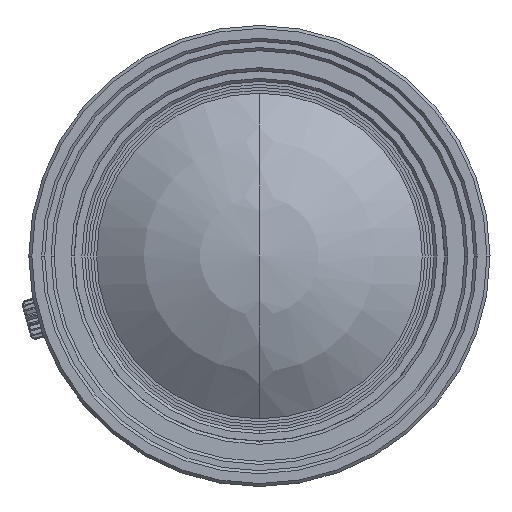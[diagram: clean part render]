
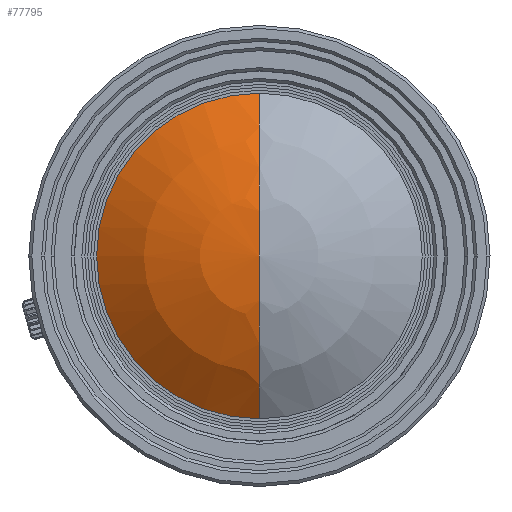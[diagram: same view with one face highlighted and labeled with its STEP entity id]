
A CAD part, left-side view. The second image highlights one B-rep face of the part: STEP entity #77795.
In plain terms, the highlighted spherical face has radius 25.657 mm.
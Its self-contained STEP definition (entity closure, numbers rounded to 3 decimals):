
#77700=CARTESIAN_POINT('',(34.09,-7.633,
-13.958));
#77701=DIRECTION('',(0.,1.,0.));
#77702=DIRECTION('',(-1.,0.,0.));
#77703=AXIS2_PLACEMENT_3D('',#77700,#77701,#77702);
#77705=CARTESIAN_POINT('',(34.09,-7.633,
-13.958));
#77706=DIRECTION('',(0.,1.,0.));
#77707=DIRECTION('',(-0.769,0.,-0.639));
#77708=AXIS2_PLACEMENT_3D('',#77705,#77706,#77707);
#77719=CARTESIAN_POINT('',(14.358,-7.632,
-13.958));
#77720=DIRECTION('',(-1.,0.,0.));
#77721=DIRECTION('',(0.,0.,1.));
#77722=AXIS2_PLACEMENT_3D('',#77719,#77720,#77721);
#77766=CARTESIAN_POINT('',(8.433,-7.632,
-13.958));
#77767=CARTESIAN_POINT('',(14.358,-7.632,
2.442));
#77768=VERTEX_POINT('',#77766);
#77769=VERTEX_POINT('',#77767);
#77770=CARTESIAN_POINT('',(14.358,-7.632,
-30.358));
#77771=VERTEX_POINT('',#77770);
#77782=CARTESIAN_POINT('',(34.09,-7.633,
-13.958));
#77783=DIRECTION('',(-1.,0.,0.));
#77784=DIRECTION('',(0.,0.,-1.));
#77785=AXIS2_PLACEMENT_3D('',#77782,#77783,#77784);
#77786=SPHERICAL_SURFACE('',#77785,25.657);
#77788=ORIENTED_EDGE('',*,*,#77787,.F.);
#77790=ORIENTED_EDGE('',*,*,#77789,.F.);
#77792=ORIENTED_EDGE('',*,*,#77791,.F.);
#77793=EDGE_LOOP('',(#77788,#77790,#77792));
#77794=FACE_OUTER_BOUND('',#77793,.F.);
#77704=CIRCLE('',#77703,25.657);
#77709=CIRCLE('',#77708,25.657);
#77723=CIRCLE('',#77722,16.4);
#77787=EDGE_CURVE('',#77768,#77769,#77704,.T.);
#77789=EDGE_CURVE('',#77771,#77768,#77709,.T.);
#77791=EDGE_CURVE('',#77769,#77771,#77723,.T.);
#77795=ADVANCED_FACE('',(#77794),#77786,.T.);
